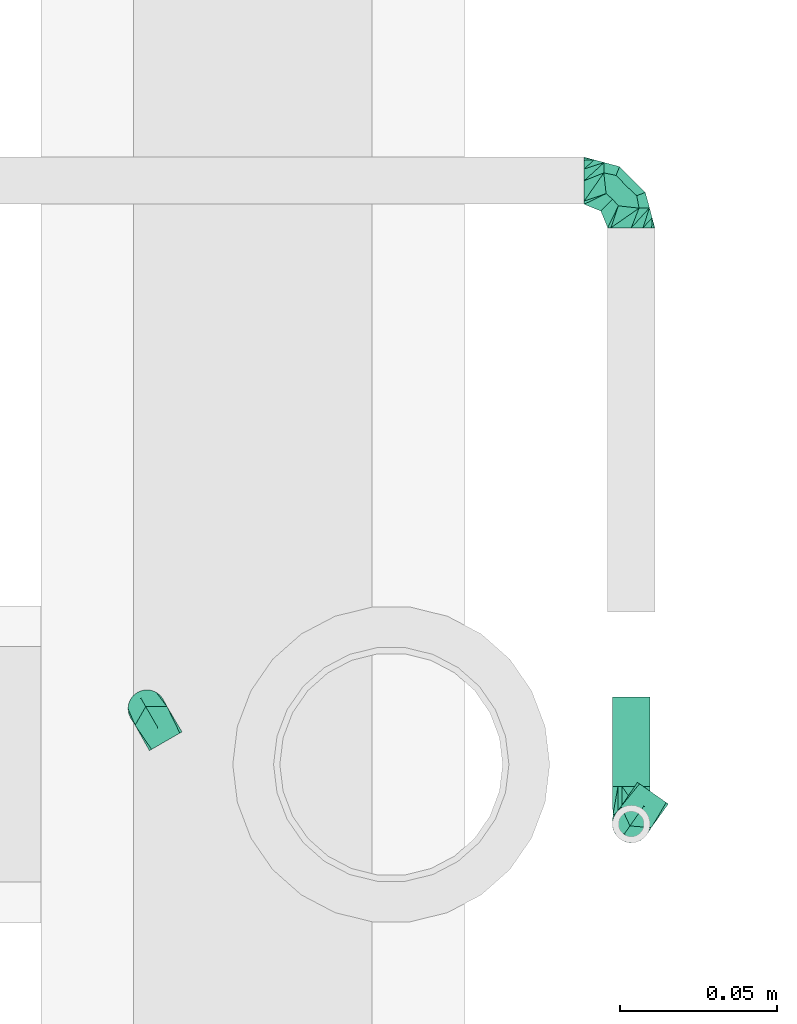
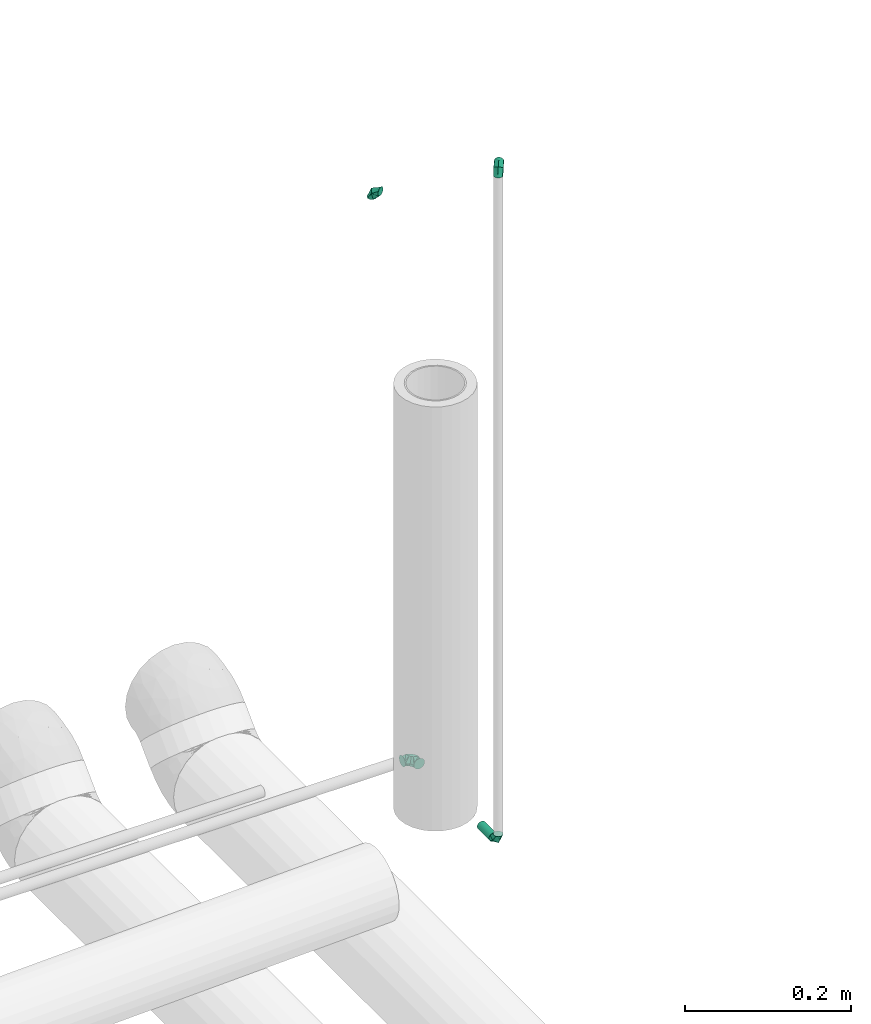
# One storey, part 100 of 156: 4 flow fittings, 1 flow segment.
"""IFC2X3 building model written with IfcOpenShell, lengths in millimetres."""

from ifc_helpers import new_model, entity, si_unit, converted_unit, derived_unit, direction, frame, origin_with_axes, origin_2d_with_axis, place, context, subcontext, project, spatial, hollow_circle, extrude, open_shell, surface_model, source, transform, mapped, type_object, element, save


model = new_model("IFC2X3")

# Units and contexts
model_context = context("Model", 3, precision=0.01, world=frame((0.0, 4.29681676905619e-09, 0.0)), true_north=direction((4.01073788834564e-13, 1.0)))
plan_context = context("Plan", 3, precision=0.01, world=frame((0.0, 4.29681676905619e-09, 0.0)), true_north=direction((4.01073788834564e-13, 1.0)))
body_context = subcontext(model_context, "Body", "Model", "MODEL_VIEW")
ifc_project = project(units=[converted_unit("PLANEANGLEUNIT", "DEGREE", entity("IfcPositiveLengthMeasure", 0.0174532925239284), si_unit("PLANEANGLEUNIT", "RADIAN"), dimensions=[0, 0, 0, 0, 0, 0, 0]), si_unit("AREAUNIT", "SQUARE_METRE"), si_unit("LENGTHUNIT", "METRE", prefix="MILLI"), si_unit("MASSUNIT", "GRAM", prefix="KILO"), si_unit("POWERUNIT", "WATT"), si_unit("PRESSUREUNIT", "PASCAL", prefix="KILO"), si_unit("FORCEUNIT", "NEWTON", prefix="KILO"), si_unit("ELECTRICVOLTAGEUNIT", "VOLT"), si_unit("ELECTRICCURRENTUNIT", "AMPERE"), si_unit("THERMODYNAMICTEMPERATUREUNIT", "DEGREE_CELSIUS"), si_unit("TIMEUNIT", "SECOND"), si_unit("VOLUMEUNIT", "CUBIC_METRE"), derived_unit("LINEARVELOCITYUNIT", [(si_unit("LENGTHUNIT", "METRE"), 1), (si_unit("TIMEUNIT", "SECOND"), -1)]), derived_unit("VOLUMETRICFLOWRATEUNIT", [(si_unit("VOLUMEUNIT", "CUBIC_METRE"), 1), (si_unit("TIMEUNIT", "SECOND"), -1)]), derived_unit("THERMALTRANSMITTANCEUNIT", [(si_unit("POWERUNIT", "WATT"), 1), (si_unit("THERMODYNAMICTEMPERATUREUNIT", "KELVIN"), -1), (si_unit("AREAUNIT", "SQUARE_METRE"), -1)]), derived_unit("SOUNDPRESSUREUNIT", [(si_unit("PRESSUREUNIT", "PASCAL"), 1)])], contexts=[model_context, plan_context])

# Site, building, storey
site_placement = place(None, frame((0.0, -4.29681676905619e-09, 0.0), z_axis=(0.0, 0.0, 1.0), x_axis=(1.0, 0.0, 0.0)))
site = spatial("IfcSite", under=ifc_project, at=site_placement, CompositionType="ELEMENT")
building_placement = place(site_placement, frame((0.0, 4.29681676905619e-09, 0.0), z_axis=(0.0, 0.0, 1.0), x_axis=(1.0, 0.0, 0.0)))
building = spatial("IfcBuilding", under=site, at=building_placement, Name="mc-building", CompositionType="ELEMENT")
storey_placement = place(building_placement, frame((0.0, 0.0, 205200.0), z_axis=(0.0, 0.0, 1.0), x_axis=(1.0, 0.0, 0.0)))
storey = spatial("IfcBuildingStorey", under=building, at=storey_placement, Name="Nivå D + 1,2 m", CompositionType="ELEMENT", Elevation=205200.0)

# Flow fittings
pipe_fitting_type = type_object("IfcPipeFittingType", Name="magi_pipe_elbow_short_001", PredefinedType="BEND")
shared_shape_1 = source(origin_with_axes(), body_context, "Body", "SurfaceModel", [
    surface_model("IfcShellBasedSurfaceModel", [(-12.0, 0.0, -6.0), (-12.0, -5.19615, -3.0), (-12.0, 1.55291, -5.79555), (-12.0, 5.79555, -1.55291), (-12.0, -5.79555, -1.55291), (-12.0, -6.0, 0.0), (-12.0, -1.55291, 5.79555), (-12.0, 0.0, 6.0), (-12.0, -3.0, 5.19615), (-12.0, 3.0, -5.19615), (-12.0, 5.19615, -3.0), (-12.0, 4.24264, -4.24264), (-12.0, -3.0, -5.19615), (-12.0, -4.24264, -4.24264), (-12.0, -1.55291, -5.79555), (-12.0, 6.0, 0.0), (-12.0, -4.24264, 4.24264), (-12.0, 5.79555, 1.55291), (-12.0, 5.19615, 3.0), (-12.0, 4.24264, 4.24264), (-12.0, 1.55291, 5.79555), (-12.0, 3.0, 5.19615), (-12.0, -5.79555, 1.55291), (-12.0, -5.19615, 3.0), (-1.55291, 12.0, -5.79555), (5.19615, 12.0, -3.0), (0.0, 12.0, -6.0), (-5.79555, 12.0, -1.55291), (-3.0, 12.0, -5.19615), (-4.24264, 12.0, -4.24264), (-5.19615, 12.0, -3.0), (-1.55291, 12.0, 5.79555), (1.55291, 12.0, -5.79555), (4.24264, 12.0, -4.24264), (3.0, 12.0, -5.19615), (6.0, 12.0, 0.0), (5.79555, 12.0, -1.55291), (4.24264, 12.0, 4.24264), (-5.19615, 12.0, 3.0), (-5.79555, 12.0, 1.55291), (-4.24264, 12.0, 4.24264), (-3.0, 12.0, 5.19615), (5.19615, 12.0, 3.0), (5.79555, 12.0, 1.55291), (3.0, 12.0, 5.19615), (0.0, 12.0, 6.0), (1.55291, 12.0, 5.79555), (-6.0, 12.0, 0.0), (-2.67965, 2.67964, 5.88263), (-6.5981, -3.76246, 0.0), (0.72792, -0.72792, 0.0), (3.76246, 6.5981, 0.0), (-7.75736, 7.75736, 0.0), (-2.67964, 2.67964, -5.88263)], [open_shell([[[0, 1, 2]], [[3, 2, 1]], [[4, 5, 1]], [[6, 7, 8]], [[9, 2, 3]], [[3, 10, 11]], [[9, 3, 11]], [[12, 13, 14]], [[1, 14, 13]], [[0, 14, 1]], [[1, 5, 3]], [[5, 15, 3]], [[16, 17, 5]], [[18, 17, 19]], [[20, 21, 19]], [[17, 20, 19]], [[20, 17, 8]], [[5, 22, 23]], [[5, 23, 16]], [[17, 16, 8]], [[20, 8, 7]], [[17, 15, 5]], [[24, 25, 26]], [[27, 24, 28]], [[29, 30, 27]], [[29, 27, 28]], [[31, 25, 24]], [[32, 33, 34]], [[33, 32, 25]], [[25, 35, 36]], [[25, 32, 26]], [[25, 37, 35]], [[38, 24, 27]], [[27, 39, 38]], [[24, 38, 31]], [[40, 41, 31]], [[40, 31, 38]], [[37, 25, 31]], [[35, 42, 43]], [[37, 42, 35]], [[44, 45, 46]], [[44, 37, 31]], [[45, 44, 31]], [[27, 47, 39]], [[6, 48, 7]], [[23, 22, 49]], [[16, 23, 49]], [[22, 5, 49]], [[50, 51, 48]], [[8, 49, 48]], [[20, 7, 48]], [[8, 48, 6]], [[42, 51, 43]], [[16, 49, 8]], [[18, 19, 38]], [[48, 19, 21]], [[17, 18, 52]], [[52, 15, 17]], [[52, 18, 38]], [[21, 20, 48]], [[49, 50, 48]], [[44, 46, 48]], [[51, 44, 48]], [[46, 45, 48]], [[35, 43, 51]], [[44, 51, 37]], [[37, 51, 42]], [[38, 39, 52]], [[47, 52, 39]], [[41, 40, 48]], [[40, 19, 48]], [[38, 19, 40]], [[31, 41, 48]], [[45, 31, 48]], [[9, 53, 2]], [[2, 53, 0]], [[52, 10, 3]], [[50, 49, 53]], [[11, 29, 53]], [[1, 49, 4]], [[11, 10, 29]], [[9, 11, 53]], [[49, 5, 4]], [[1, 13, 49]], [[14, 53, 12]], [[49, 13, 12]], [[12, 53, 49]], [[0, 53, 14]], [[3, 15, 52]], [[52, 47, 27]], [[52, 27, 30]], [[29, 10, 30]], [[32, 53, 26]], [[53, 28, 24]], [[36, 35, 51]], [[53, 29, 28]], [[26, 53, 24]], [[53, 34, 51]], [[51, 34, 33]], [[25, 36, 51]], [[51, 50, 53]], [[51, 33, 25]], [[34, 53, 32]], [[30, 10, 52]]])]),
])
for number, where, z_axis, x_axis, name in (
    (1, (330440.83415, 462108.63355, 4318.0), (-1.0, 0.0, 0.0), (0.0, -1.0, 0.0), "magi_pipe_elbow_short_001"),
    (2, (330286.4804, 462145.40418, 5309.81012000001), (0.866025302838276, 0.500000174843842, 0.0), (0.0, 0.0, 1.0), "magi_pipe_elbow_short_001"),
    (3, (330440.83415, 462108.63355, 5309.81012000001), (-0.819152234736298, 0.573576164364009, 0.0), (0.0, 0.0, 1.0), "magi_pipe_elbow_short_001"),
):
    element("IfcFlowFitting", number, at=place(storey_placement, frame(where, z_axis=z_axis, x_axis=x_axis)), inside=storey, type_object=pipe_fitting_type, Name=name, context=body_context, shape_type="MappedRepresentation", body=[
        mapped(shared_shape_1, transform((0.0, 0.0, 0.0), scale=1.0)),
    ])
shared_shape_2 = source(origin_with_axes(), body_context, "Body", "SurfaceModel", [
    surface_model("IfcShellBasedSurfaceModel", [(-15.0, 0.0, -7.5), (-15.0, -6.49519, -3.75), (-15.0, 1.94114, -7.24444), (-15.0, 3.75, -6.49519), (-15.0, 5.3033, -5.3033), (-15.0, 7.24444, -1.94114), (-15.0, 6.49519, -3.75), (-15.0, -5.3033, -5.3033), (-15.0, -3.75, -6.49519), (-15.0, -1.94114, -7.24444), (-15.0, -7.24444, -1.94114), (-15.0, -7.5, 0.0), (-15.0, -6.49519, 3.75), (-15.0, 7.24444, 1.94114), (-15.0, 6.49519, 3.75), (-15.0, 3.75, 6.49519), (-15.0, 1.94114, 7.24444), (-15.0, 5.3033, 5.3033), (-15.0, -5.3033, 5.3033), (-15.0, -7.24444, 1.94114), (-15.0, -1.94114, 7.24444), (-15.0, 0.0, 7.5), (-15.0, -3.75, 6.49519), (-15.0, 7.5, 0.0), (-1.94114, 15.0, -7.24444), (6.49519, 15.0, -3.75), (0.0, 15.0, -7.5), (-5.3033, 15.0, -5.3033), (-3.75, 15.0, -6.49519), (-6.49519, 15.0, -3.75), (-7.24444, 15.0, -1.94114), (3.75, 15.0, -6.49519), (5.3033, 15.0, -5.3033), (1.94114, 15.0, -7.24444), (7.5, 15.0, 0.0), (7.24444, 15.0, -1.94114), (-7.24444, 15.0, 1.94114), (6.49519, 15.0, 3.75), (-3.75, 15.0, 6.49519), (-6.49519, 15.0, 3.75), (-1.94114, 15.0, 7.24444), (-5.3033, 15.0, 5.3033), (5.3033, 15.0, 5.3033), (7.24444, 15.0, 1.94114), (3.75, 15.0, 6.49519), (0.0, 15.0, 7.5), (1.94114, 15.0, 7.24444), (-7.5, 15.0, 0.0), (-13.40845, -7.07355, 0.0), (-8.7589, -2.47707, 6.60232), (-8.6338, -5.79418, 0.0), (-3.75, -4.48557, 0.0), (0.36779, -0.36779, 0.0), (2.42668, 1.69111, 0.0), (-2.25176, 0.98822, 6.3797), (-1.69111, -2.42668, 0.0), (-11.8169, -6.64709, 0.0), (-5.9304, 5.9304, 7.17811), (-4.11647, 8.02676, 7.20749), (2.47708, 8.7589, 6.60232), (1.67739, 4.87408, 5.99192), (4.48557, 3.75, 0.0), (-4.78013, -1.73268, 5.91836), (7.07355, 13.40845, 0.0), (6.64709, 11.8169, 0.0), (-8.02675, 4.11647, 7.20749), (-8.59835, 12.34835, 0.0), (-12.34835, 8.59835, 0.0), (-9.6967, 9.6967, 0.0), (5.79418, 8.6338, 0.0), (-8.7589, -2.47707, -6.60232), (-4.11647, 8.02676, -7.20749), (0.71542, 3.43733, -5.99192), (-2.23993, 1.78364, -6.69976), (2.47708, 8.7589, -6.60232), (-11.39207, 6.08032, -5.22727), (-7.08629, 1.82323, -7.49084), (-8.19523, 6.76007, -6.13545)], [open_shell([[[0, 1, 2]], [[3, 2, 4]], [[5, 6, 4]], [[4, 2, 1]], [[5, 4, 1]], [[7, 1, 8]], [[9, 8, 1]], [[10, 11, 1]], [[0, 9, 1]], [[11, 12, 1]], [[12, 5, 1]], [[13, 5, 12]], [[14, 13, 15]], [[13, 16, 15]], [[17, 14, 15]], [[16, 13, 12]], [[12, 18, 16]], [[12, 11, 19]], [[20, 21, 22]], [[18, 22, 21]], [[16, 18, 21]], [[13, 23, 5]], [[24, 25, 26]], [[27, 24, 28]], [[27, 29, 30]], [[25, 24, 27]], [[25, 27, 30]], [[31, 25, 32]], [[25, 31, 33]], [[25, 34, 35]], [[25, 33, 26]], [[30, 34, 25]], [[30, 36, 34]], [[34, 36, 37]], [[38, 36, 39]], [[38, 40, 36]], [[38, 39, 41]], [[37, 36, 40]], [[40, 42, 37]], [[43, 34, 37]], [[44, 45, 46]], [[45, 44, 42]], [[45, 42, 40]], [[36, 30, 47]], [[19, 48, 12]], [[49, 50, 51]], [[52, 53, 54]], [[54, 55, 52]], [[22, 18, 56]], [[12, 56, 18]], [[57, 54, 58]], [[22, 50, 20]], [[21, 20, 50]], [[59, 60, 61]], [[59, 58, 60]], [[55, 54, 62]], [[21, 50, 49]], [[21, 49, 16]], [[62, 49, 51]], [[62, 51, 55]], [[37, 63, 43]], [[49, 15, 16]], [[64, 63, 37]], [[13, 65, 23]], [[14, 17, 49]], [[54, 65, 62]], [[15, 49, 17]], [[57, 58, 66]], [[67, 57, 68]], [[53, 60, 54]], [[46, 45, 69]], [[69, 44, 46]], [[41, 59, 38]], [[40, 59, 45]], [[42, 44, 64]], [[54, 60, 58]], [[64, 44, 69]], [[61, 60, 53]], [[43, 63, 34]], [[59, 61, 69]], [[58, 47, 66]], [[22, 56, 50]], [[54, 57, 65]], [[49, 65, 14]], [[36, 47, 58]], [[64, 37, 42]], [[39, 36, 58]], [[14, 65, 13]], [[41, 39, 59]], [[19, 11, 48]], [[39, 58, 59]], [[48, 56, 12]], [[38, 59, 40]], [[59, 69, 45]], [[49, 62, 65]], [[57, 67, 65]], [[66, 68, 57]], [[67, 23, 65]], [[70, 50, 0]], [[71, 72, 73]], [[74, 71, 29]], [[70, 2, 3]], [[70, 51, 50]], [[35, 34, 63]], [[75, 4, 6]], [[75, 5, 23]], [[6, 5, 75]], [[51, 76, 55]], [[75, 23, 67]], [[70, 4, 75]], [[48, 11, 10]], [[8, 56, 7]], [[0, 50, 9]], [[51, 70, 76]], [[56, 8, 50]], [[8, 9, 50]], [[70, 0, 2]], [[66, 47, 71]], [[52, 72, 53]], [[4, 70, 3]], [[70, 75, 76]], [[73, 52, 55]], [[71, 68, 66]], [[61, 53, 72]], [[31, 64, 69]], [[30, 71, 47]], [[27, 74, 29]], [[56, 1, 7]], [[28, 24, 74]], [[63, 64, 25]], [[56, 48, 1]], [[28, 74, 27]], [[1, 48, 10]], [[26, 74, 24]], [[33, 69, 26]], [[29, 71, 30]], [[32, 64, 31]], [[69, 33, 31]], [[68, 71, 77]], [[74, 26, 69]], [[25, 35, 63]], [[61, 72, 74]], [[61, 74, 69]], [[67, 77, 75]], [[74, 72, 71]], [[25, 64, 32]], [[76, 77, 73]], [[75, 77, 76]], [[77, 71, 73]], [[55, 76, 73]], [[72, 52, 73]], [[77, 67, 68]]])]),
])
flow_fitting_placement = place(storey_placement, frame((330440.83415, 462313.63355, 4318.0), z_axis=(0.0, 0.0, 1.0), x_axis=(0.0, 1.0, 0.0)))
element("IfcFlowFitting", 4, at=flow_fitting_placement, inside=storey, type_object=pipe_fitting_type, Name="magi_pipe_elbow_short_001", context=body_context, shape_type="MappedRepresentation", body=[
    mapped(shared_shape_2, transform((0.0, 0.0, 0.0), scale=1.0)),
])

# Flow segment
pipe_segment_type = type_object("IfcPipeSegmentType", Name="Kobberrør", PredefinedType="RIGIDSEGMENT")
shared_shape_3 = source(origin_with_axes(), body_context, "Body", "SweptSolid", [
    extrude(hollow_circle(Radius=6.0, WallThickness=2.0, at=origin_2d_with_axis()), frame((0.0, 0.0, 0.0), z_axis=(1.0, 0.0, 0.0), x_axis=(0.0, 1.0, 0.0)), (0.0, 0.0, 1.0), 28.5),
])
flow_segment_placement = place(storey_placement, frame((330440.83415, 462149.12379, 4318.0), z_axis=(0.0, 0.0, 1.0), x_axis=(0.0, -1.0, 0.0)))
element("IfcFlowSegment", 5, at=flow_segment_placement, inside=storey, type_object=pipe_segment_type, Name="Kobberrør", context=body_context, shape_type="MappedRepresentation", body=[
    mapped(shared_shape_3, transform((0.0, 0.0, 0.0), scale=1.0)),
])

save(model, "model.ifc")
